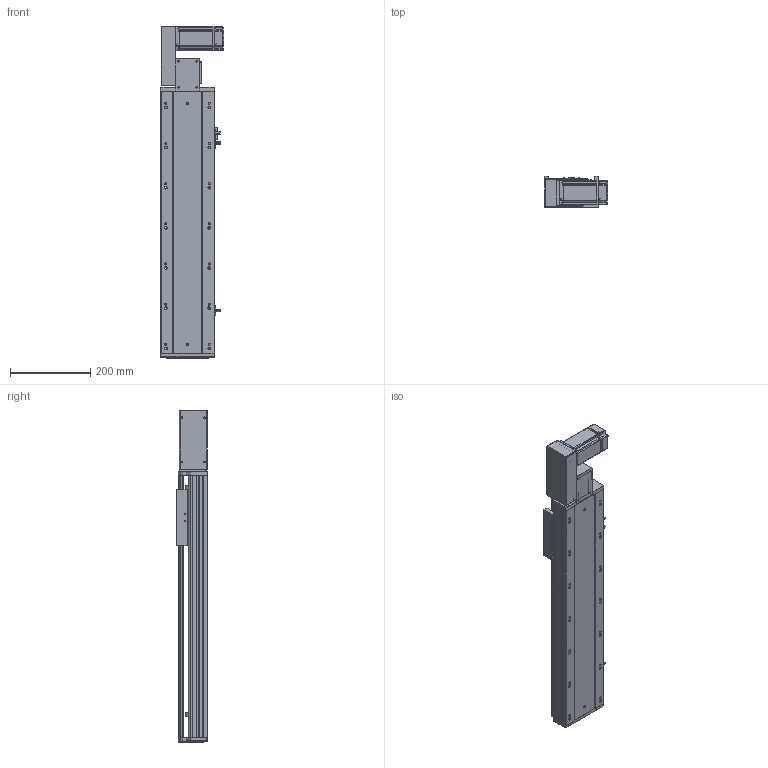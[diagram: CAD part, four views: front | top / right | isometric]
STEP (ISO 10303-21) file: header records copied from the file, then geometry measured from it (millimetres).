
FILE_DESCRIPTION (( 'STEP AP203' ), '1' );
FILE_NAME ('RY140-T-300-LK.SLDASM_400.step', '2021-03-01T06:34:43', ( '盈信电脑' ), ( '东莞市道滘镇水果街19号' ), 'SwSTEP 2.0', 'SolidWorks 2012', '' );
FILE_SCHEMA (( 'CONFIG_CONTROL_DESIGN' ));
Length unit declared in the file: millimetre
Products named in the file (18): RY140綴裔啣; RY140-T-300-LK.SLDASM_400; RY140-T萇儂欶; RY120-T蹟翐M4; RY140-T翋肮謫裔啣; 滅袉蝶18-10; 侂狟400W侜督萇儂; 15; RY120-T主同步轮轴承压盖; RY140-T萇儂假蚾啣; RY120-T肮祭湍揤踡輸1; RY120-T肮祭湍揤踡輸2; RY140-T翋肮祭謫盓傅釱; RY120外置感应片(140共用）; 覜茼ん672; RY140肮祭謫臏賑輸; RY140-T-300-DL倰第奻裔啣_400; RY140-T-300-DL倰第菁釱_400
Assembly tree (23 placements, depth 3):
  RY140-T-300-LK.SLDASM_400
    RY140-T-300-DL倰第菁釱_400
    RY140肮祭謫臏賑輸
    RY140-T-300-DL倰第奻裔啣_400
    RY140綴裔啣
    覜茼ん672  x3
    RY120外置感应片(140共用）
    RY120-T肮祭湍揤踡輸2
    RY120-T肮祭湍揤踡輸1
    RY140-T翋肮祭謫盓傅釱
    RY140-T萇儂假蚾啣
    侂狟400W侜督萇儂
      15
    RY120-T主同步轮轴承压盖
    RY120-T蹟翐M4  x4
    RY140-T萇儂欶
    滅袉蝶18-10  x2
    RY140-T翋肮謫裔啣
Bounding box: 157 x 78 x 826.5 mm (x, y, z)
Volume: 2558648.1 mm3; surface area: 938682.5 mm2
Topology: 22 solids, 22 shells, 2587 faces, 7089 edges, 4576 vertices
Faces by surface type: plane 1385, cylinder 924, cone 178, bspline 100
Entity records: 82129 total; most frequent: CARTESIAN_POINT 20179, ORIENTED_EDGE 12746, DIRECTION 12037, EDGE_CURVE 6373, VERTEX_POINT 4175, VECTOR 4117, LINE 4117, AXIS2_PLACEMENT_3D 3960
